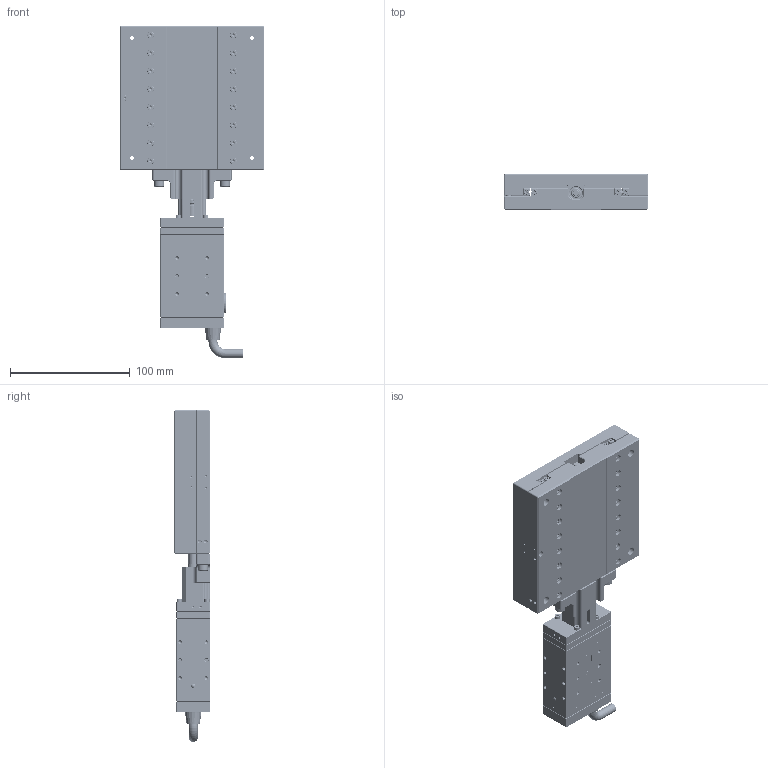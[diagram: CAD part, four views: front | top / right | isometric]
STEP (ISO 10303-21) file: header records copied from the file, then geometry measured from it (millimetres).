
FILE_DESCRIPTION (( 'STEP AP214' ), '1' );
FILE_NAME ('ELS-120賑怢.STEP', '2022-04-13T07:17:25', ( 'User' ), ( 'China' ), 'SwSTEP 2.0', 'SolidWorks 2016', '' );
FILE_SCHEMA (( 'AUTOMOTIVE_DESIGN' ));
Length unit declared in the file: millimetre
Products named in the file (6): hexagon socket head cap screws gb_GB_FASTENER_SCREWS_HSHCS M2.5X16-N; 蛌諉楊擘B-B; HEPG02000000萇蛈-B; M2202-013(諦蚚)((1)-B; ELS-120賑怢; hexagon socket head cap screws gb_GB_FASTENER_SCREWS_HSHCS M5X10-N
Assembly tree (9 placements, depth 2):
  ELS-120賑怢
    M2202-013(諦蚚)((1)-B
    HEPG02000000萇蛈-B
    蛌諉楊擘B-B
    hexagon socket head cap screws gb_GB_FASTENER_SCREWS_HSHCS M2.5X16-N  x4
    hexagon socket head cap screws gb_GB_FASTENER_SCREWS_HSHCS M5X10-N  x2
Bounding box: 120 x 30 x 276.75 mm (x, y, z)
Volume: 462017.7 mm3; surface area: 172436.4 mm2
Topology: 83 solids, 83 shells, 4267 faces, 10653 edges, 6566 vertices
Faces by surface type: plane 1881, cylinder 1161, cone 746, bspline 441, torus 34, sphere 4
Entity records: 147034 total; most frequent: CARTESIAN_POINT 34739, DIRECTION 20378, ORIENTED_EDGE 20342, EDGE_CURVE 10171, AXIS2_PLACEMENT_3D 7551, VERTEX_POINT 6434, VECTOR 5276, LINE 5276
